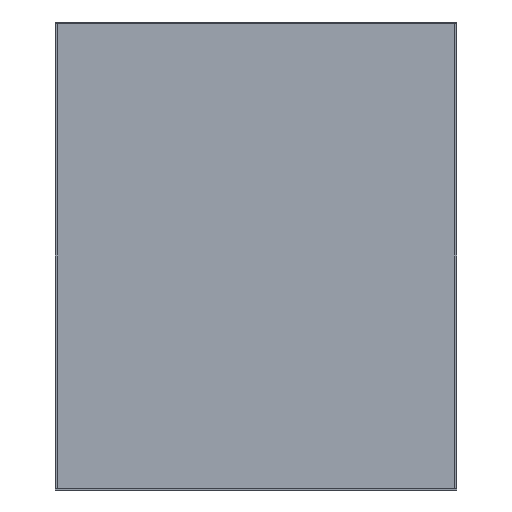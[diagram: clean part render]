
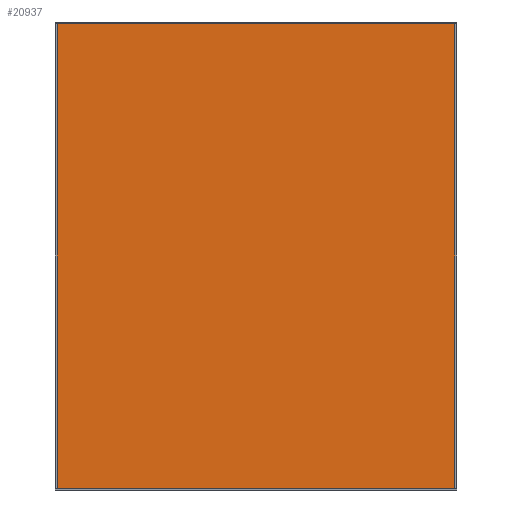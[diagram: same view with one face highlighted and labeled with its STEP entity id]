
A CAD part, front view. The second image highlights one B-rep face of the part: STEP entity #20937.
In plain terms, the highlighted planar face has unit normal (0, -1, 0).
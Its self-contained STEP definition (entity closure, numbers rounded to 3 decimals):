
#20721 = EDGE_CURVE('',#20722,#20724,#20726,.T.);
#20722 = VERTEX_POINT('',#20723);
#20723 = CARTESIAN_POINT('',(-0.155,-0.096,0.002)
  );
#20724 = VERTEX_POINT('',#20725);
#20725 = CARTESIAN_POINT('',(-0.155,-0.096,
    0.364));
#20726 = SURFACE_CURVE('',#20727,(#20731,#20743),.PCURVE_S1.);
#20727 = LINE('',#20728,#20729);
#20728 = CARTESIAN_POINT('',(-0.155,-0.096,0.002)
  );
#20729 = VECTOR('',#20730,1.);
#20730 = DIRECTION('',(0.,0.,1.));
#20731 = PCURVE('',#20732,#20737);
#20732 = PLANE('',#20733);
#20733 = AXIS2_PLACEMENT_3D('',#20734,#20735,#20736);
#20734 = CARTESIAN_POINT('',(-0.155,-0.096,0.002)
  );
#20735 = DIRECTION('',(1.,0.,0.));
#20736 = DIRECTION('',(0.,0.,1.));
#20737 = DEFINITIONAL_REPRESENTATION('',(#20738),#20742);
#20738 = LINE('',#20739,#20740);
#20739 = CARTESIAN_POINT('',(0.,0.));
#20740 = VECTOR('',#20741,1.);
#20741 = DIRECTION('',(1.,0.));
#20742 = ( GEOMETRIC_REPRESENTATION_CONTEXT(2) 
PARAMETRIC_REPRESENTATION_CONTEXT() REPRESENTATION_CONTEXT('2D SPACE',''
  ) );
#20743 = PCURVE('',#20744,#20749);
#20744 = PLANE('',#20745);
#20745 = AXIS2_PLACEMENT_3D('',#20746,#20747,#20748);
#20746 = CARTESIAN_POINT('',(-0.155,-0.096,0.002)
  );
#20747 = DIRECTION('',(0.,1.,0.));
#20748 = DIRECTION('',(0.,0.,1.));
#20749 = DEFINITIONAL_REPRESENTATION('',(#20750),#20754);
#20750 = LINE('',#20751,#20752);
#20751 = CARTESIAN_POINT('',(0.,0.));
#20752 = VECTOR('',#20753,1.);
#20753 = DIRECTION('',(1.,0.));
#20754 = ( GEOMETRIC_REPRESENTATION_CONTEXT(2) 
PARAMETRIC_REPRESENTATION_CONTEXT() REPRESENTATION_CONTEXT('2D SPACE',''
  ) );
#20772 = PLANE('',#20773);
#20773 = AXIS2_PLACEMENT_3D('',#20774,#20775,#20776);
#20774 = CARTESIAN_POINT('',(-0.155,-0.096,0.002)
  );
#20775 = DIRECTION('',(0.,0.,1.));
#20776 = DIRECTION('',(1.,0.,0.));
#20826 = PLANE('',#20827);
#20827 = AXIS2_PLACEMENT_3D('',#20828,#20829,#20830);
#20828 = CARTESIAN_POINT('',(-0.155,-0.096,
    0.364));
#20829 = DIRECTION('',(0.,0.,1.));
#20830 = DIRECTION('',(1.,0.,0.));
#20841 = EDGE_CURVE('',#20842,#20844,#20846,.T.);
#20842 = VERTEX_POINT('',#20843);
#20843 = CARTESIAN_POINT('',(0.155,-0.096,0.002)
  );
#20844 = VERTEX_POINT('',#20845);
#20845 = CARTESIAN_POINT('',(0.155,-0.096,
    0.364));
#20846 = SURFACE_CURVE('',#20847,(#20851,#20863),.PCURVE_S1.);
#20847 = LINE('',#20848,#20849);
#20848 = CARTESIAN_POINT('',(0.155,-0.096,0.002)
  );
#20849 = VECTOR('',#20850,1.);
#20850 = DIRECTION('',(0.,0.,1.));
#20851 = PCURVE('',#20852,#20857);
#20852 = PLANE('',#20853);
#20853 = AXIS2_PLACEMENT_3D('',#20854,#20855,#20856);
#20854 = CARTESIAN_POINT('',(0.155,-0.096,0.002)
  );
#20855 = DIRECTION('',(1.,0.,0.));
#20856 = DIRECTION('',(0.,0.,1.));
#20857 = DEFINITIONAL_REPRESENTATION('',(#20858),#20862);
#20858 = LINE('',#20859,#20860);
#20859 = CARTESIAN_POINT('',(0.,0.));
#20860 = VECTOR('',#20861,1.);
#20861 = DIRECTION('',(1.,0.));
#20862 = ( GEOMETRIC_REPRESENTATION_CONTEXT(2) 
PARAMETRIC_REPRESENTATION_CONTEXT() REPRESENTATION_CONTEXT('2D SPACE',''
  ) );
#20863 = PCURVE('',#20744,#20864);
#20864 = DEFINITIONAL_REPRESENTATION('',(#20865),#20869);
#20865 = LINE('',#20866,#20867);
#20866 = CARTESIAN_POINT('',(0.,0.31));
#20867 = VECTOR('',#20868,1.);
#20868 = DIRECTION('',(1.,0.));
#20869 = ( GEOMETRIC_REPRESENTATION_CONTEXT(2) 
PARAMETRIC_REPRESENTATION_CONTEXT() REPRESENTATION_CONTEXT('2D SPACE',''
  ) );
#20937 = ADVANCED_FACE('',(#20938),#20744,.F.);
#20938 = FACE_BOUND('',#20939,.F.);
#20939 = EDGE_LOOP('',(#20940,#20961,#20962,#20983));
#20940 = ORIENTED_EDGE('',*,*,#20941,.F.);
#20941 = EDGE_CURVE('',#20722,#20842,#20942,.T.);
#20942 = SURFACE_CURVE('',#20943,(#20947,#20954),.PCURVE_S1.);
#20943 = LINE('',#20944,#20945);
#20944 = CARTESIAN_POINT('',(-0.155,-0.096,0.002)
  );
#20945 = VECTOR('',#20946,1.);
#20946 = DIRECTION('',(1.,0.,0.));
#20947 = PCURVE('',#20744,#20948);
#20948 = DEFINITIONAL_REPRESENTATION('',(#20949),#20953);
#20949 = LINE('',#20950,#20951);
#20950 = CARTESIAN_POINT('',(0.,0.));
#20951 = VECTOR('',#20952,1.);
#20952 = DIRECTION('',(0.,1.));
#20953 = ( GEOMETRIC_REPRESENTATION_CONTEXT(2) 
PARAMETRIC_REPRESENTATION_CONTEXT() REPRESENTATION_CONTEXT('2D SPACE',''
  ) );
#20954 = PCURVE('',#20772,#20955);
#20955 = DEFINITIONAL_REPRESENTATION('',(#20956),#20960);
#20956 = LINE('',#20957,#20958);
#20957 = CARTESIAN_POINT('',(0.,0.));
#20958 = VECTOR('',#20959,1.);
#20959 = DIRECTION('',(1.,0.));
#20960 = ( GEOMETRIC_REPRESENTATION_CONTEXT(2) 
PARAMETRIC_REPRESENTATION_CONTEXT() REPRESENTATION_CONTEXT('2D SPACE',''
  ) );
#20961 = ORIENTED_EDGE('',*,*,#20721,.T.);
#20962 = ORIENTED_EDGE('',*,*,#20963,.T.);
#20963 = EDGE_CURVE('',#20724,#20844,#20964,.T.);
#20964 = SURFACE_CURVE('',#20965,(#20969,#20976),.PCURVE_S1.);
#20965 = LINE('',#20966,#20967);
#20966 = CARTESIAN_POINT('',(-0.155,-0.096,
    0.364));
#20967 = VECTOR('',#20968,1.);
#20968 = DIRECTION('',(1.,0.,0.));
#20969 = PCURVE('',#20744,#20970);
#20970 = DEFINITIONAL_REPRESENTATION('',(#20971),#20975);
#20971 = LINE('',#20972,#20973);
#20972 = CARTESIAN_POINT('',(0.362,0.));
#20973 = VECTOR('',#20974,1.);
#20974 = DIRECTION('',(0.,1.));
#20975 = ( GEOMETRIC_REPRESENTATION_CONTEXT(2) 
PARAMETRIC_REPRESENTATION_CONTEXT() REPRESENTATION_CONTEXT('2D SPACE',''
  ) );
#20976 = PCURVE('',#20826,#20977);
#20977 = DEFINITIONAL_REPRESENTATION('',(#20978),#20982);
#20978 = LINE('',#20979,#20980);
#20979 = CARTESIAN_POINT('',(0.,0.));
#20980 = VECTOR('',#20981,1.);
#20981 = DIRECTION('',(1.,0.));
#20982 = ( GEOMETRIC_REPRESENTATION_CONTEXT(2) 
PARAMETRIC_REPRESENTATION_CONTEXT() REPRESENTATION_CONTEXT('2D SPACE',''
  ) );
#20983 = ORIENTED_EDGE('',*,*,#20841,.F.);
